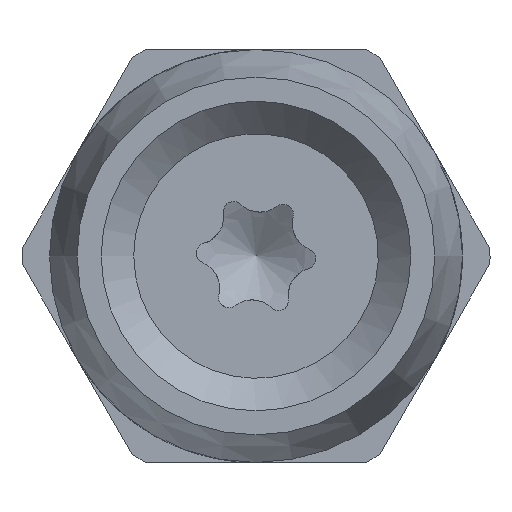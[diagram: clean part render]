
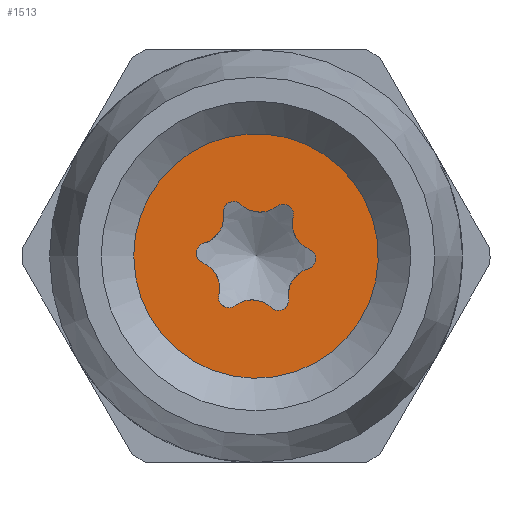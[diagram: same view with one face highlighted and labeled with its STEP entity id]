
A CAD part, front view. The second image highlights one B-rep face of the part: STEP entity #1513.
In plain terms, the highlighted planar face has unit normal (0, -1, 0).
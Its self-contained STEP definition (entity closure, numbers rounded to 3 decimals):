
#294=FACE_BOUND('',#411,.T.);
#326=FACE_OUTER_BOUND('',#410,.T.);
#410=EDGE_LOOP('',(#1057,#1058));
#411=EDGE_LOOP('',(#1059,#1060,#1061,#1062,#1063,#1064,#1065,#1066,#1067,
#1068,#1069,#1070));
#500=CIRCLE('',#1624,0.15);
#501=CIRCLE('',#1626,0.4);
#502=CIRCLE('',#1628,0.15);
#503=CIRCLE('',#1631,0.15);
#504=CIRCLE('',#1633,0.4);
#505=CIRCLE('',#1635,0.15);
#506=CIRCLE('',#1637,0.4);
#507=CIRCLE('',#1639,0.15);
#508=CIRCLE('',#1641,0.4);
#509=CIRCLE('',#1643,0.4);
#510=CIRCLE('',#1645,0.4);
#511=CIRCLE('',#1647,0.15);
#512=CIRCLE('',#1649,1.776);
#513=CIRCLE('',#1650,1.776);
#594=VERTEX_POINT('',#2283);
#595=VERTEX_POINT('',#2285);
#596=VERTEX_POINT('',#2289);
#599=VERTEX_POINT('',#2323);
#610=VERTEX_POINT('',#2467);
#611=VERTEX_POINT('',#2469);
#612=VERTEX_POINT('',#2473);
#613=VERTEX_POINT('',#2477);
#614=VERTEX_POINT('',#2481);
#615=VERTEX_POINT('',#2485);
#616=VERTEX_POINT('',#2491);
#617=VERTEX_POINT('',#2495);
#618=VERTEX_POINT('',#2501);
#619=VERTEX_POINT('',#2502);
#754=EDGE_CURVE('',#595,#594,#500,.T.);
#756=EDGE_CURVE('',#594,#596,#501,.T.);
#761=EDGE_CURVE('',#596,#599,#502,.T.);
#774=EDGE_CURVE('',#611,#610,#503,.T.);
#776=EDGE_CURVE('',#612,#611,#504,.T.);
#778=EDGE_CURVE('',#613,#612,#505,.T.);
#780=EDGE_CURVE('',#599,#614,#506,.T.);
#782=EDGE_CURVE('',#614,#615,#507,.T.);
#784=EDGE_CURVE('',#615,#613,#508,.T.);
#785=EDGE_CURVE('',#610,#616,#509,.T.);
#787=EDGE_CURVE('',#617,#595,#510,.T.);
#789=EDGE_CURVE('',#616,#617,#511,.T.);
#790=EDGE_CURVE('',#618,#619,#512,.T.);
#791=EDGE_CURVE('',#619,#618,#513,.T.);
#1057=ORIENTED_EDGE('',*,*,#790,.F.);
#1058=ORIENTED_EDGE('',*,*,#791,.F.);
#1059=ORIENTED_EDGE('',*,*,#785,.T.);
#1060=ORIENTED_EDGE('',*,*,#789,.T.);
#1061=ORIENTED_EDGE('',*,*,#787,.T.);
#1062=ORIENTED_EDGE('',*,*,#754,.T.);
#1063=ORIENTED_EDGE('',*,*,#756,.T.);
#1064=ORIENTED_EDGE('',*,*,#761,.T.);
#1065=ORIENTED_EDGE('',*,*,#780,.T.);
#1066=ORIENTED_EDGE('',*,*,#782,.T.);
#1067=ORIENTED_EDGE('',*,*,#784,.T.);
#1068=ORIENTED_EDGE('',*,*,#778,.T.);
#1069=ORIENTED_EDGE('',*,*,#776,.T.);
#1070=ORIENTED_EDGE('',*,*,#774,.T.);
#1400=PLANE('',#1648);
#1513=ADVANCED_FACE('',(#326,#294),#1400,.T.);
#1624=AXIS2_PLACEMENT_3D('',#2286,#1834,#1835);
#1626=AXIS2_PLACEMENT_3D('',#2290,#1839,#1840);
#1628=AXIS2_PLACEMENT_3D('',#2325,#1845,#1846);
#1631=AXIS2_PLACEMENT_3D('',#2470,#1853,#1854);
#1633=AXIS2_PLACEMENT_3D('',#2474,#1858,#1859);
#1635=AXIS2_PLACEMENT_3D('',#2478,#1863,#1864);
#1637=AXIS2_PLACEMENT_3D('',#2482,#1868,#1869);
#1639=AXIS2_PLACEMENT_3D('',#2486,#1873,#1874);
#1641=AXIS2_PLACEMENT_3D('',#2489,#1878,#1879);
#1643=AXIS2_PLACEMENT_3D('',#2492,#1882,#1883);
#1645=AXIS2_PLACEMENT_3D('',#2496,#1887,#1888);
#1647=AXIS2_PLACEMENT_3D('',#2499,#1892,#1893);
#1648=AXIS2_PLACEMENT_3D('',#2500,#1894,#1895);
#1649=AXIS2_PLACEMENT_3D('',#2503,#1896,#1897);
#1650=AXIS2_PLACEMENT_3D('',#2504,#1898,#1899);
#1834=DIRECTION('center_axis',(0.,1.,0.));
#1835=DIRECTION('ref_axis',(0.837,0.,-0.548));
#1839=DIRECTION('center_axis',(0.,-1.,0.));
#1840=DIRECTION('ref_axis',(0.837,0.,-0.548));
#1845=DIRECTION('center_axis',(0.,1.,0.));
#1846=DIRECTION('ref_axis',(0.837,0.,-0.548));
#1853=DIRECTION('center_axis',(0.,1.,0.));
#1854=DIRECTION('ref_axis',(-0.837,0.,0.548));
#1858=DIRECTION('center_axis',(0.,-1.,0.));
#1859=DIRECTION('ref_axis',(-0.837,0.,0.548));
#1863=DIRECTION('center_axis',(0.,1.,0.));
#1864=DIRECTION('ref_axis',(-0.837,0.,0.548));
#1868=DIRECTION('center_axis',(0.,-1.,0.));
#1869=DIRECTION('ref_axis',(0.837,0.,-0.548));
#1873=DIRECTION('center_axis',(0.,1.,0.));
#1874=DIRECTION('ref_axis',(0.837,0.,-0.548));
#1878=DIRECTION('center_axis',(0.,-1.,0.));
#1879=DIRECTION('ref_axis',(-0.837,0.,0.548));
#1882=DIRECTION('center_axis',(0.,-1.,0.));
#1883=DIRECTION('ref_axis',(-0.837,0.,0.548));
#1887=DIRECTION('center_axis',(0.,-1.,0.));
#1888=DIRECTION('ref_axis',(0.837,0.,-0.548));
#1892=DIRECTION('center_axis',(0.,1.,0.));
#1893=DIRECTION('ref_axis',(0.837,0.,-0.548));
#1894=DIRECTION('center_axis',(0.,-1.,0.));
#1895=DIRECTION('ref_axis',(0.548,0.,0.837));
#1896=DIRECTION('center_axis',(0.,1.,0.));
#1897=DIRECTION('ref_axis',(1.,0.,0.));
#1898=DIRECTION('center_axis',(0.,1.,0.));
#1899=DIRECTION('ref_axis',(1.,0.,0.));
#2283=CARTESIAN_POINT('',(0.76,-1.126,-0.185));
#2285=CARTESIAN_POINT('',(0.776,-1.126,0.098));
#2286=CARTESIAN_POINT('Origin',(0.719,-1.126,-0.04));
#2289=CARTESIAN_POINT('',(0.473,-1.126,-0.623));
#2290=CARTESIAN_POINT('Origin',(0.87,-1.126,-0.569));
#2323=CARTESIAN_POINT('',(0.22,-1.126,-0.75));
#2325=CARTESIAN_POINT('Origin',(0.324,-1.126,-0.643));
#2467=CARTESIAN_POINT('',(-0.22,-1.126,0.75));
#2469=CARTESIAN_POINT('',(-0.473,-1.126,0.623));
#2470=CARTESIAN_POINT('Origin',(-0.324,-1.126,0.643));
#2473=CARTESIAN_POINT('',(-0.76,-1.126,0.185));
#2474=CARTESIAN_POINT('Origin',(-0.87,-1.126,0.569));
#2477=CARTESIAN_POINT('',(-0.776,-1.126,-0.098));
#2478=CARTESIAN_POINT('Origin',(-0.719,-1.126,0.04));
#2481=CARTESIAN_POINT('',(-0.303,-1.126,-0.721));
#2482=CARTESIAN_POINT('Origin',(-0.058,-1.126,-1.038));
#2485=CARTESIAN_POINT('',(-0.54,-1.126,-0.566));
#2486=CARTESIAN_POINT('Origin',(-0.394,-1.126,-0.602));
#2489=CARTESIAN_POINT('Origin',(-0.928,-1.126,-0.468));
#2491=CARTESIAN_POINT('',(0.303,-1.126,0.721));
#2492=CARTESIAN_POINT('Origin',(0.058,-1.126,1.038));
#2495=CARTESIAN_POINT('',(0.54,-1.126,0.566));
#2496=CARTESIAN_POINT('Origin',(0.928,-1.126,0.468));
#2499=CARTESIAN_POINT('Origin',(0.394,-1.126,0.602));
#2500=CARTESIAN_POINT('Origin',(-0.487,-1.126,-0.743));
#2501=CARTESIAN_POINT('',(0.973,-1.126,1.486));
#2502=CARTESIAN_POINT('',(-1.776,-1.126,0.));
#2503=CARTESIAN_POINT('Origin',(0.,-1.126,
0.));
#2504=CARTESIAN_POINT('Origin',(0.,-1.126,
0.));
